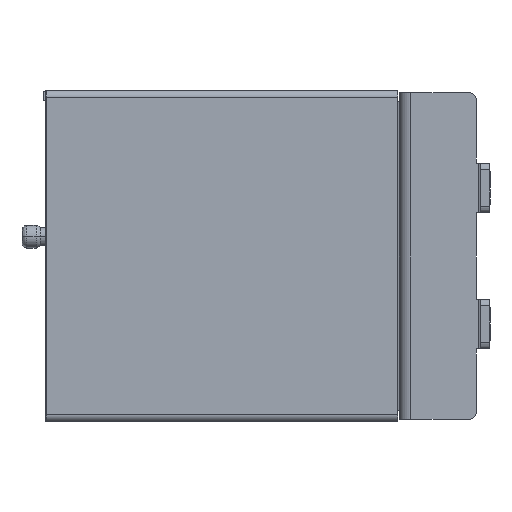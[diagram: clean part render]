
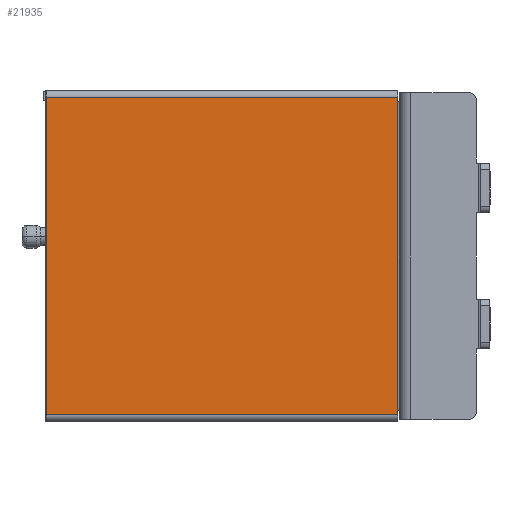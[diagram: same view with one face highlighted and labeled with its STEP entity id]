
A CAD part, left-side view. The second image highlights one B-rep face of the part: STEP entity #21935.
In plain terms, the highlighted planar face has unit normal (-1, 0, 0) as drawn and (0, 0, -1) by its records, which use the part's own axes.
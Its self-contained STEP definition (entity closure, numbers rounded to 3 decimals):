
#125 = EDGE_LOOP ( 'NONE', ( #14759, #28715, #9073, #10781 ) ) ;
#126 = FACE_OUTER_BOUND ( 'NONE', #125, .T. ) ;
#431 = LINE ( 'NONE', #9337, #1606 ) ;
#1606 = VECTOR ( 'NONE', #18202, 1000. ) ;
#1706 = CARTESIAN_POINT ( 'NONE',  ( 0., 0.8, -50.5 ) ) ;
#1754 = EDGE_CURVE ( 'NONE', #19640, #13114, #431, .T. ) ;
#2312 = CARTESIAN_POINT ( 'NONE',  ( 35., 0.8, -50.5 ) ) ;
#4036 = LINE ( 'NONE', #1706, #16165 ) ;
#4229 = DIRECTION ( 'NONE',  ( 0., 0., 1. ) ) ;
#4389 = VERTEX_POINT ( 'NONE', #6116 ) ;
#5714 = CARTESIAN_POINT ( 'NONE',  ( 35., 78.5, -50.5 ) ) ;
#5759 = CARTESIAN_POINT ( 'NONE',  ( 36.5, 78.25, -50.5 ) ) ;
#6116 = CARTESIAN_POINT ( 'NONE',  ( 35., 78.25, -50.5 ) ) ;
#6407 = PLANE ( 'NONE',  #13980 ) ;
#8758 = VECTOR ( 'NONE', #15028, 1000. ) ;
#9073 = ORIENTED_EDGE ( 'NONE', *, *, #1754, .F. ) ;
#9337 = CARTESIAN_POINT ( 'NONE',  ( -35., 78.5, -50.5 ) ) ;
#9983 = CARTESIAN_POINT ( 'NONE',  ( -35., 78.25, -50.5 ) ) ;
#10545 = VECTOR ( 'NONE', #19880, 1000. ) ;
#10781 = ORIENTED_EDGE ( 'NONE', *, *, #13170, .F. ) ;
#13114 = VERTEX_POINT ( 'NONE', #28068 ) ;
#13170 = EDGE_CURVE ( 'NONE', #4389, #19640, #25731, .T. ) ;
#13980 = AXIS2_PLACEMENT_3D ( 'NONE', #24201, #4229, #15718 ) ;
#14759 = ORIENTED_EDGE ( 'NONE', *, *, #20217, .F. ) ;
#15028 = DIRECTION ( 'NONE',  ( 0., 1., 0. ) ) ;
#15718 = DIRECTION ( 'NONE',  ( 1., 0., 0. ) ) ;
#16165 = VECTOR ( 'NONE', #25897, 1000. ) ;
#18202 = DIRECTION ( 'NONE',  ( 0., -1., 0. ) ) ;
#19640 = VERTEX_POINT ( 'NONE', #9983 ) ;
#19880 = DIRECTION ( 'NONE',  ( -1., 0., 0. ) ) ;
#20217 = EDGE_CURVE ( 'NONE', #24590, #4389, #26131, .T. ) ;
#21935 = ADVANCED_FACE ( 'NONE', ( #126 ), #6407, .F. ) ;
#24201 = CARTESIAN_POINT ( 'NONE',  ( 36.5, 78.5, -50.5 ) ) ;
#24590 = VERTEX_POINT ( 'NONE', #2312 ) ;
#25731 = LINE ( 'NONE', #5759, #10545 ) ;
#25897 = DIRECTION ( 'NONE',  ( 1., 0., 0. ) ) ;
#25962 = EDGE_CURVE ( 'NONE', #13114, #24590, #4036, .T. ) ;
#26131 = LINE ( 'NONE', #5714, #8758 ) ;
#28068 = CARTESIAN_POINT ( 'NONE',  ( -35., 0.8, -50.5 ) ) ;
#28715 = ORIENTED_EDGE ( 'NONE', *, *, #25962, .F. ) ;
